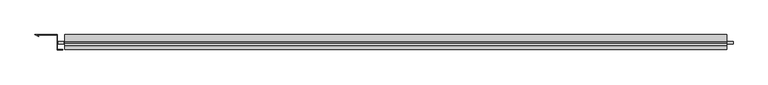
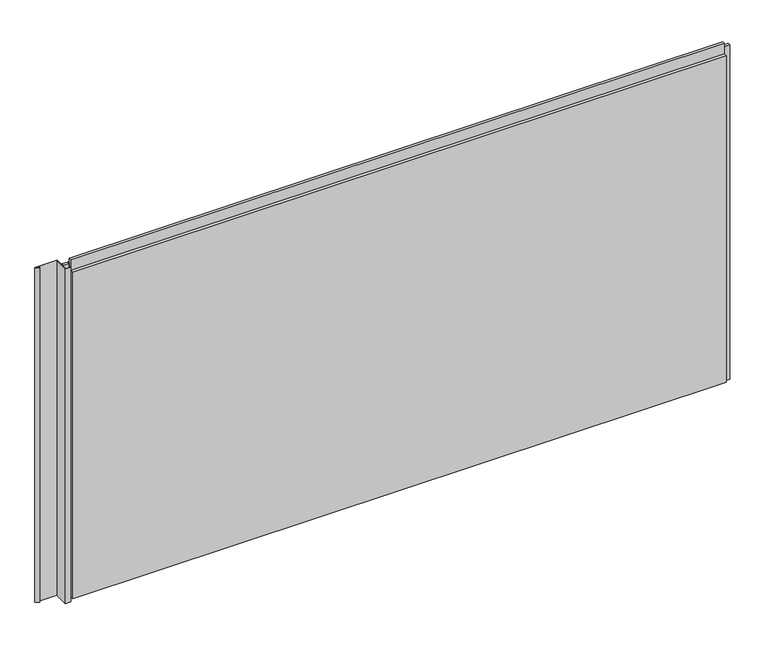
"""IFC4 building model written with IfcOpenShell, lengths in millimetres: plate geometry, Trimo_Qbiss Screen_Normal Panel-HORIZONTAL : HR - B."""

from ifc_helpers import new_model, si_unit, frame, origin, place, context, project, spatial, polyline, outline, extrude, source, transform, mapped, element, save


def plate_e989e5cf(model_context):
    return source(origin(), model_context, "Body", "SweptSolid", [
        extrude(outline(polyline([(-1119.0, 100.0), (-1119.0, 50.0), (-1101.5, 50.0), (-1101.5, 49.2), (-1119.8, 49.2), (-1119.8, 99.1967741), (-1191.008772, 99.1967741), (-1181.4756443, 93.6928203), (-1181.8756443, 93.0), (-1194.0, 100.0), (-1119.0, 100.0)])), frame((0.0, 0.0, -1.0), z_axis=(0.0, 0.0, 1.0), x_axis=(1.0, 0.0, 0.0)), (0.0, 0.0, 1.0), 1200.0),
        extrude(outline(polyline([(-1097.0, 76.5978162), (-1097.0, 67.8978162), (-1116.0, 67.8978162), (-1116.0, 76.5978162), (-1097.0, 76.5978162)])), frame((0.0, 0.0, -1.0), z_axis=(0.0, 0.0, 1.0), x_axis=(1.0, 0.0, 0.0)), (0.0, 0.0, 1.0), 1200.0),
        extrude(outline(polyline([(1125.5, 67.8978162), (1125.5, 76.5978162), (1144.5, 76.5978162), (1144.5, 67.8978162), (1125.5, 67.8978162)])), frame((0.0, 0.0, -1.0), z_axis=(0.0, 0.0, 1.0), x_axis=(1.0, 0.0, 0.0)), (0.0, 0.0, 1.0), 1200.0),
        extrude(outline(polyline([(1122.5, 76.0), (1122.5, 71.0), (-1094.0, 71.0), (-1094.0, 76.0), (1122.5, 76.0)])), frame((0.0, 0.0, 1178.0), z_axis=(0.0, 0.0, 1.0), x_axis=(1.0, 0.0, 0.0)), (0.0, 0.0, 1.0), 21.0),
        extrude(outline(polyline([(71.0, 1177.0), (100.0, 1177.0), (100.0, 0.0), (72.0, 0.0), (72.0, 15.5), (62.0, 15.5), (62.0, 7.0), (50.0, 7.0), (50.0, 1177.0), (63.0, 1177.0), (63.0, 1214.5), (71.0, 1214.5), (71.0, 1177.0)])), frame((-1094.0, 0.0, 0.0), z_axis=(1.0, 0.0, 0.0), x_axis=(0.0, 1.0, 0.0)), (0.0, 0.0, 1.0), 2216.5),
    ])


if __name__ == "__main__":
    model = new_model("IFC4")
    model_context = context("Model", 3, world=origin())
    ifc_project = project(units=[si_unit("LENGTHUNIT", "METRE", prefix="MILLI")], contexts=[model_context])
    site = spatial("IfcSite", under=ifc_project)
    building = spatial("IfcBuilding", under=site)
    placement = place(None, origin())
    plate_shape = plate_e989e5cf(model_context)
    element("IfcPlate", 1, ObjectType="Trimo_Qbiss Screen_Normal Panel-HORIZONTAL : HR - B", at=placement, inside=building, context=model_context, shape_type="MappedRepresentation", body=[
        mapped(plate_shape, transform((0.0, 0.0, 0.0), x_axis=(1.0, 0.0, 0.0), y_axis=(0.0, 1.0, 0.0), z_axis=(0.0, 0.0, 1.0))),
    ])
    save(model, "model.ifc")
